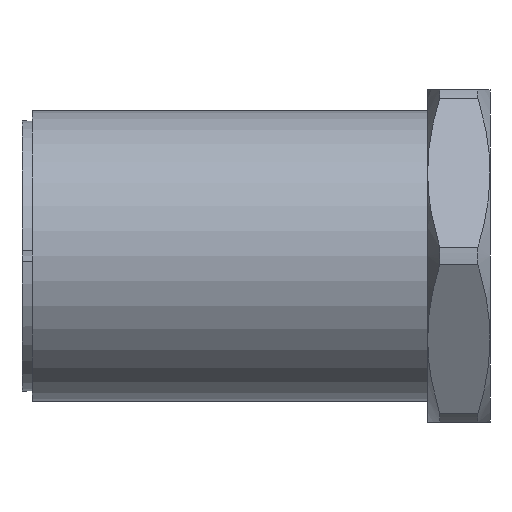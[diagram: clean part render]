
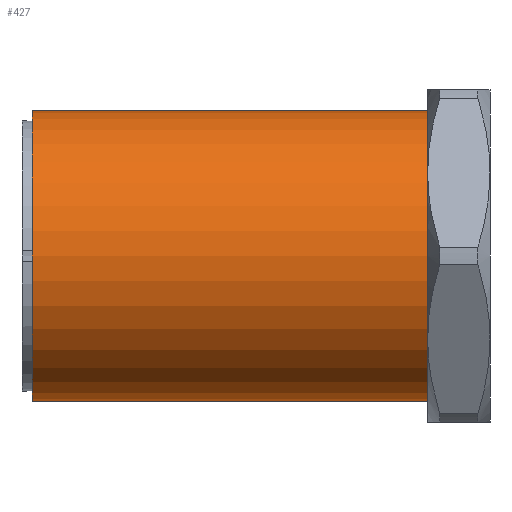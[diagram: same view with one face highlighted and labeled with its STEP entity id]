
A CAD part, front view. The second image highlights one B-rep face of the part: STEP entity #427.
In plain terms, the highlighted cylindrical face has radius 7 mm (diameter 14 mm), a partial arc.
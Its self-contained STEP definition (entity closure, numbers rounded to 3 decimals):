
#6 = VECTOR ( 'NONE', #992, 1000. ) ;
#7 = LINE ( 'NONE', #983, #6 ) ;
#48 = VECTOR ( 'NONE', #1042, 1000. ) ;
#160 = EDGE_LOOP ( 'NONE', ( #1342, #1343, #1344, #1389 ) ) ;
#194 = VERTEX_POINT ( 'NONE', #710 ) ;
#195 = VERTEX_POINT ( 'NONE', #707 ) ;
#197 = VERTEX_POINT ( 'NONE', #666 ) ;
#198 = VERTEX_POINT ( 'NONE', #665 ) ;
#315 = CIRCLE ( 'NONE', #522, 7. ) ;
#427 = ADVANCED_FACE ( 'NONE', ( #1361 ), #1306, .T. ) ;
#522 = AXIS2_PLACEMENT_3D ( 'NONE', #1050, #1052, #1053 ) ;
#532 = EDGE_CURVE ( 'NONE', #195, #194, #7, .T. ) ;
#543 = EDGE_CURVE ( 'NONE', #197, #194, #718, .T. ) ;
#558 = EDGE_CURVE ( 'NONE', #198, #197, #751, .T. ) ;
#565 = AXIS2_PLACEMENT_3D ( 'NONE', #1007, #1008, #1009 ) ;
#568 = EDGE_CURVE ( 'NONE', #198, #195, #315, .T. ) ;
#630 = AXIS2_PLACEMENT_3D ( 'NONE', #683, #711, #681 ) ;
#665 = CARTESIAN_POINT ( 'NONE',  ( 19., 0., -7. ) ) ;
#666 = CARTESIAN_POINT ( 'NONE',  ( 0., 0., -7. ) ) ;
#681 = DIRECTION ( 'NONE',  ( 0., 0., 1. ) ) ;
#683 = CARTESIAN_POINT ( 'NONE',  ( 0., 0., 0. ) ) ;
#707 = CARTESIAN_POINT ( 'NONE',  ( 19., 0., 7. ) ) ;
#710 = CARTESIAN_POINT ( 'NONE',  ( 0., 0., 7. ) ) ;
#711 = DIRECTION ( 'NONE',  ( -1., 0., 0. ) ) ;
#718 = CIRCLE ( 'NONE', #565, 7. ) ;
#751 = LINE ( 'NONE', #1031, #48 ) ;
#983 = CARTESIAN_POINT ( 'NONE',  ( 0., 0., 7. ) ) ;
#992 = DIRECTION ( 'NONE',  ( -1., 0., 0. ) ) ;
#1007 = CARTESIAN_POINT ( 'NONE',  ( 0., 0., 0. ) ) ;
#1008 = DIRECTION ( 'NONE',  ( -1., 0., 0. ) ) ;
#1009 = DIRECTION ( 'NONE',  ( 0., 0., 1. ) ) ;
#1031 = CARTESIAN_POINT ( 'NONE',  ( 0., 0., -7. ) ) ;
#1042 = DIRECTION ( 'NONE',  ( -1., 0., 0. ) ) ;
#1050 = CARTESIAN_POINT ( 'NONE',  ( 19., 0., 0. ) ) ;
#1052 = DIRECTION ( 'NONE',  ( -1., 0., 0. ) ) ;
#1053 = DIRECTION ( 'NONE',  ( 0., 0., 1. ) ) ;
#1306 = CYLINDRICAL_SURFACE ( 'NONE', #630, 7. ) ;
#1342 = ORIENTED_EDGE ( 'NONE', *, *, #558, .F. ) ;
#1343 = ORIENTED_EDGE ( 'NONE', *, *, #568, .T. ) ;
#1344 = ORIENTED_EDGE ( 'NONE', *, *, #532, .T. ) ;
#1361 = FACE_OUTER_BOUND ( 'NONE', #160, .T. ) ;
#1389 = ORIENTED_EDGE ( 'NONE', *, *, #543, .F. ) ;
